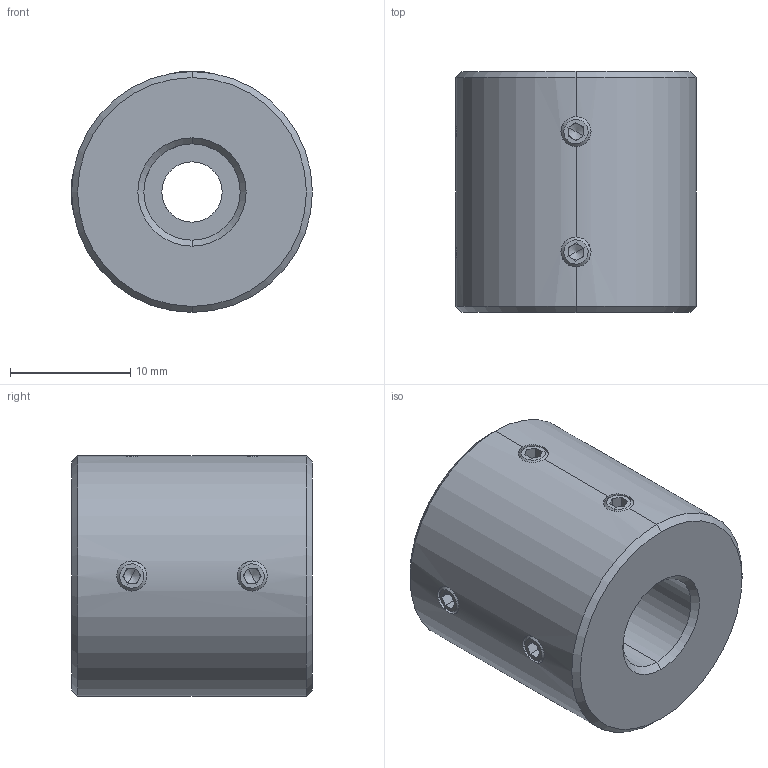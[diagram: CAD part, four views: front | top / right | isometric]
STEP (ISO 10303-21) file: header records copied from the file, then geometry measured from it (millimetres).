
FILE_DESCRIPTION (( 'STEP AP214' ), '1' );
FILE_NAME ('LL-D-D20L20-5-8.STEP', '2022-07-23T06:30:44', ( '' ), ( '' ), 'SwSTEP 2.0', 'SolidWorks 2022', '' );
FILE_SCHEMA (( 'AUTOMOTIVE_DESIGN' ));
Length unit declared in the file: millimetre
Products named in the file (1): LL-D-D20L20-5-8
Bounding box: 20 x 20 x 20 mm (x, y, z)
Volume: 5496.5 mm3; surface area: 2348 mm2
Topology: 1 solids, 1 shells, 113 faces, 286 edges, 176 vertices
Faces by surface type: plane 59, cone 32, cylinder 22
Entity records: 3646 total; most frequent: CARTESIAN_POINT 896, DIRECTION 582, ORIENTED_EDGE 556, EDGE_CURVE 278, AXIS2_PLACEMENT_3D 214, VERTEX_POINT 176, LINE 154, VECTOR 154
